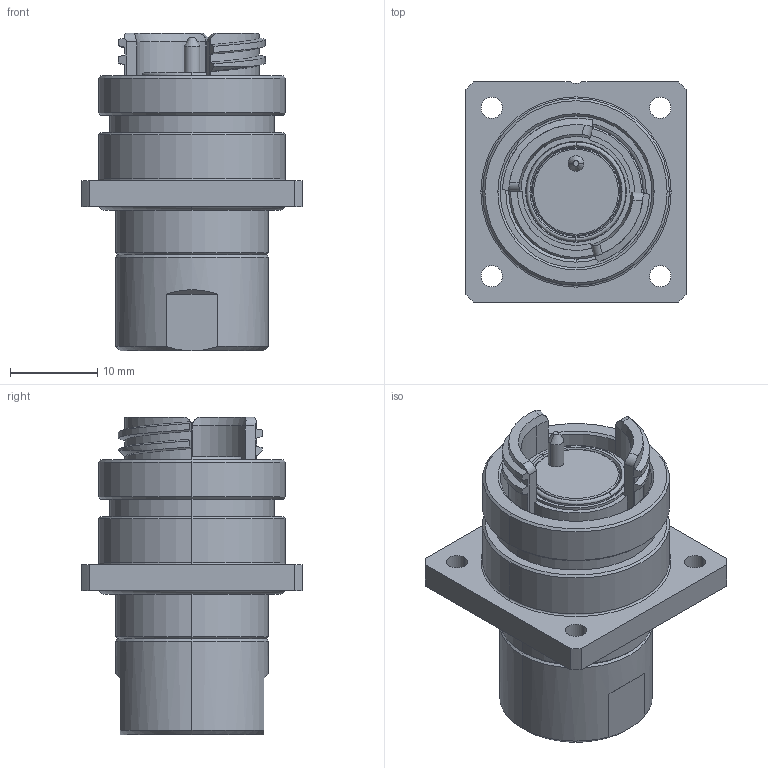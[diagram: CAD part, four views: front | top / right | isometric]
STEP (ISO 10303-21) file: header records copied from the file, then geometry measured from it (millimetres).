
FILE_DESCRIPTION (( 'STEP AP214' ), '1' );
FILE_NAME ('QMICRO-RFXX-XXXX-SXX.STEP', '2025-05-02T23:45:02', ( '' ), ( '' ), 'SwSTEP 2.0', 'SolidWorks 2024', '' );
FILE_SCHEMA (( 'AUTOMOTIVE_DESIGN' ));
Length unit declared in the file: inch
Products named in the file (1): QMICRO-RFXX-XXXX-SXX
Bounding box: 25.25 x 25.25 x 36.4 mm (x, y, z)
Volume: 9436.2 mm3; surface area: 5682.1 mm2
Topology: 1 solids, 3 shells, 203 faces, 477 edges, 297 vertices
Faces by surface type: cylinder 80, plane 46, cone 41, torus 20, bspline 16
Entity records: 9005 total; most frequent: CARTESIAN_POINT 4394, DIRECTION 976, ORIENTED_EDGE 954, EDGE_CURVE 477, AXIS2_PLACEMENT_3D 405, VERTEX_POINT 297, EDGE_LOOP 232, CIRCLE 217
